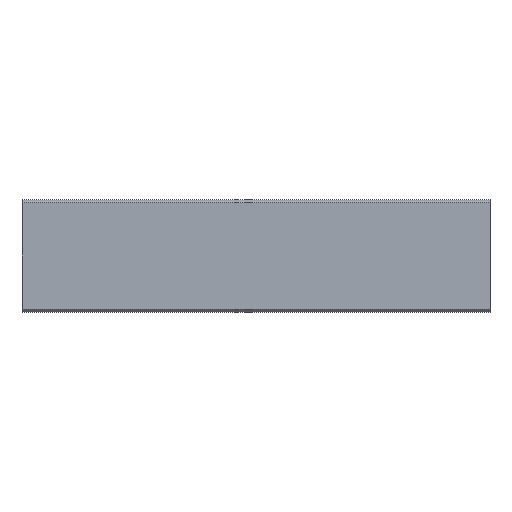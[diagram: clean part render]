
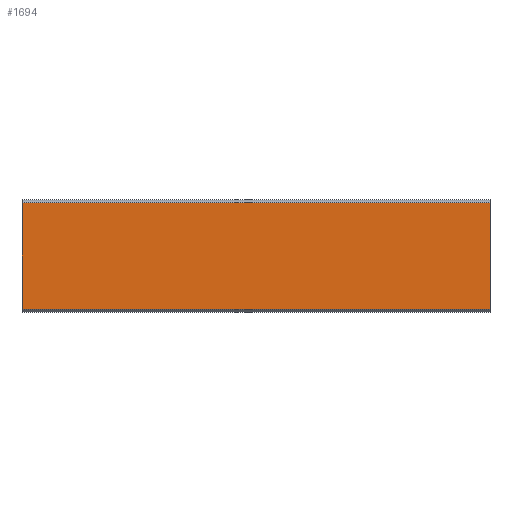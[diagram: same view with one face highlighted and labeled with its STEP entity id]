
A CAD part, front view. The second image highlights one B-rep face of the part: STEP entity #1694.
In plain terms, the highlighted planar face has unit normal (0, -1, 0).
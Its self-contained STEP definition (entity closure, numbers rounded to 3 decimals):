
#29 = CARTESIAN_POINT ( 'NONE',  ( 500., -56.5, -57.15 ) ) ;
#218 = DIRECTION ( 'NONE',  ( -1., 0., 0. ) ) ;
#383 = LINE ( 'NONE', #1113, #926 ) ;
#395 = DIRECTION ( 'NONE',  ( 0., 0., -1. ) ) ;
#413 = ORIENTED_EDGE ( 'NONE', *, *, #1136, .F. ) ;
#424 = DIRECTION ( 'NONE',  ( 0., 1., 0. ) ) ;
#478 = VERTEX_POINT ( 'NONE', #1527 ) ;
#520 = EDGE_LOOP ( 'NONE', ( #2300, #413, #2271, #2030 ) ) ;
#541 = LINE ( 'NONE', #29, #1733 ) ;
#787 = CARTESIAN_POINT ( 'NONE',  ( 500., -56.5, -57.15 ) ) ;
#841 = EDGE_CURVE ( 'NONE', #1710, #1185, #1825, .T. ) ;
#902 = AXIS2_PLACEMENT_3D ( 'NONE', #787, #424, #1323 ) ;
#926 = VECTOR ( 'NONE', #395, 1000. ) ;
#992 = LINE ( 'NONE', #1946, #1900 ) ;
#1024 = CARTESIAN_POINT ( 'NONE',  ( 0., -56.5, 57.15 ) ) ;
#1063 = FACE_OUTER_BOUND ( 'NONE', #520, .T. ) ;
#1079 = DIRECTION ( 'NONE',  ( 0., 0., -1. ) ) ;
#1113 = CARTESIAN_POINT ( 'NONE',  ( 0., -56.5, -57.15 ) ) ;
#1136 = EDGE_CURVE ( 'NONE', #478, #1849, #541, .T. ) ;
#1185 = VERTEX_POINT ( 'NONE', #1024 ) ;
#1323 = DIRECTION ( 'NONE',  ( 0., 0., 1. ) ) ;
#1376 = CARTESIAN_POINT ( 'NONE',  ( 500., -56.5, 57.15 ) ) ;
#1527 = CARTESIAN_POINT ( 'NONE',  ( 500., -56.5, -57.15 ) ) ;
#1614 = EDGE_CURVE ( 'NONE', #1185, #1849, #383, .T. ) ;
#1693 = PLANE ( 'NONE',  #902 ) ;
#1694 = ADVANCED_FACE ( 'NONE', ( #1063 ), #1693, .F. ) ;
#1710 = VERTEX_POINT ( 'NONE', #1376 ) ;
#1733 = VECTOR ( 'NONE', #218, 1000. ) ;
#1825 = LINE ( 'NONE', #1977, #2240 ) ;
#1849 = VERTEX_POINT ( 'NONE', #1924 ) ;
#1900 = VECTOR ( 'NONE', #1079, 1000. ) ;
#1924 = CARTESIAN_POINT ( 'NONE',  ( 0., -56.5, -57.15 ) ) ;
#1946 = CARTESIAN_POINT ( 'NONE',  ( 500., -56.5, -57.15 ) ) ;
#1977 = CARTESIAN_POINT ( 'NONE',  ( 500., -56.5, 57.15 ) ) ;
#1982 = DIRECTION ( 'NONE',  ( -1., 0., 0. ) ) ;
#2030 = ORIENTED_EDGE ( 'NONE', *, *, #841, .T. ) ;
#2112 = EDGE_CURVE ( 'NONE', #1710, #478, #992, .T. ) ;
#2240 = VECTOR ( 'NONE', #1982, 1000. ) ;
#2271 = ORIENTED_EDGE ( 'NONE', *, *, #2112, .F. ) ;
#2300 = ORIENTED_EDGE ( 'NONE', *, *, #1614, .T. ) ;
